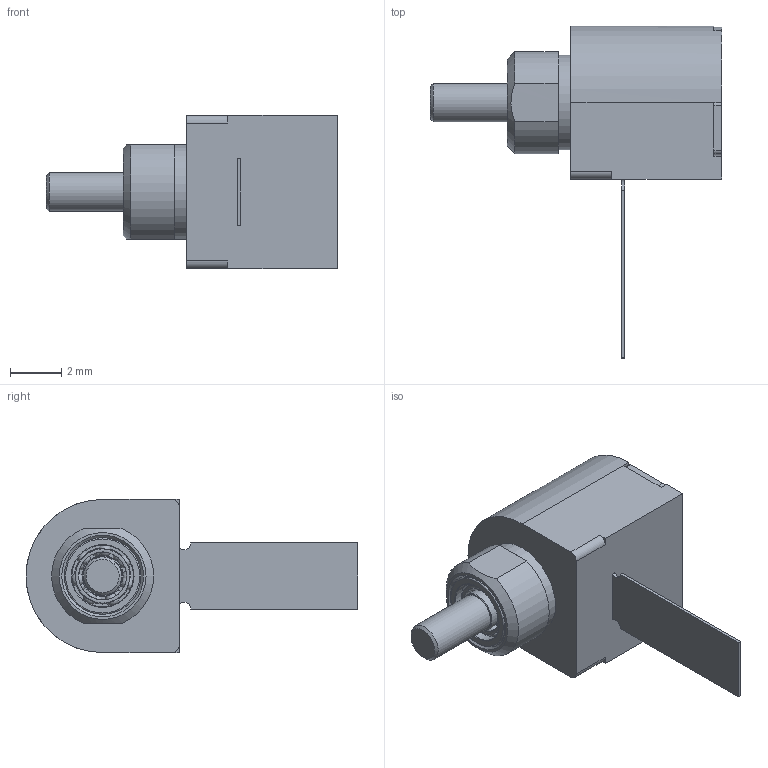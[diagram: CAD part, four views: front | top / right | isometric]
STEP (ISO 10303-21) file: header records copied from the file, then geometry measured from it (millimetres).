
FILE_DESCRIPTION(('STEP AP242'),'1');
FILE_NAME('L08L04 MES-3PST.stp','2024-03-15T02:20:08',(' '),(' '),'Spatial InterOp 3D',' ',' ');
FILE_SCHEMA(('AP242_MANAGED_MODEL_BASED_3D_ENGINEERING_MIM_LF {1 0 10303 442 1 1 4}'));
Length unit declared in the file: millimetre
Products named in the file (7): ベアリング 310LY121; L-310_or; L-310_ball; L-310_cage; L-310_ir; L08L04 MES-3PST
Assembly tree (13 placements, depth 3):
  L08L04 MES-3PST
    ベアリング 310LY121  x2
      L-310_or
      L-310_ball
      L-310_cage
      L-310_ir
    L08L04 MES-3PST
Bounding box: 11.4 x 13 x 6 mm (x, y, z)
Volume: 217.6 mm3; surface area: 418.6 mm2
Topology: 21 solids, 21 shells, 157 faces, 400 edges, 257 vertices
Faces by surface type: plane 52, cylinder 49, sphere 28, torus 24, cone 4
Full cylindrical faces by diameter (mm): 0.6 x1, 1 x3, 1.5 x1, 1.6 x4, 1.875 x2, 2.125 x2, 2.2 x1, 2.41 x4, 3 x4, 3.7 x1
Entity records: 4785 total; most frequent: CARTESIAN_POINT 826, DIRECTION 568, ORIENTED_EDGE 462, EDGE_CURVE 231, AXIS2_PLACEMENT_3D 225, EDGE_LOOP 176, VERTEX_POINT 172, FACE_OUTER_BOUND 144
